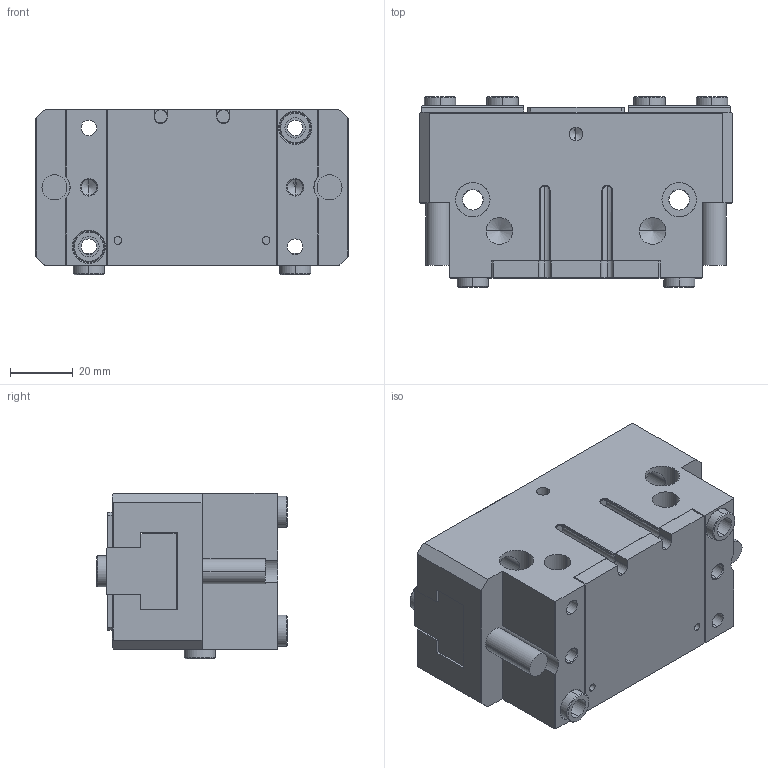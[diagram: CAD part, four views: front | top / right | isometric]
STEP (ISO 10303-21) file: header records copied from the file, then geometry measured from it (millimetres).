
FILE_DESCRIPTION (( 'STEP AP203' ), '1' );
FILE_NAME ('OPP-100-C1-原始檔-組合-W106.04.20.STEP', '2017-04-19T09:32:16', ( 'DanyaoCAD' ), ( '' ), 'SwSTEP 2.0', 'SolidWorks 2016', '' );
FILE_SCHEMA (( 'CONFIG_CONTROL_DESIGN' ));
Length unit declared in the file: millimetre
Products named in the file (6): Boccola; Griffa; Coperchio; Corpo; Fondello; OPP-100-C1-原始檔-組合-W106.04.20
Assembly tree (13 placements, depth 2):
  OPP-100-C1-原始檔-組合-W106.04.20
    Boccola  x8
    Griffa  x2
    Coperchio
    Corpo
    Fondello
Bounding box: 100 x 61 x 53 mm (x, y, z)
Volume: 223195.5 mm3; surface area: 63230 mm2
Topology: 13 solids, 13 shells, 1183 faces, 3212 edges, 2095 vertices
Faces by surface type: bspline 640, plane 314, cylinder 135, cone 94
Entity records: 51446 total; most frequent: CARTESIAN_POINT 27693, ORIENTED_EDGE 5846, EDGE_CURVE 2923, DIRECTION 2736, VERTEX_POINT 1933, VECTOR 1392, LINE 1392, B_SPLINE_CURVE_WITH_KNOTS 1303
